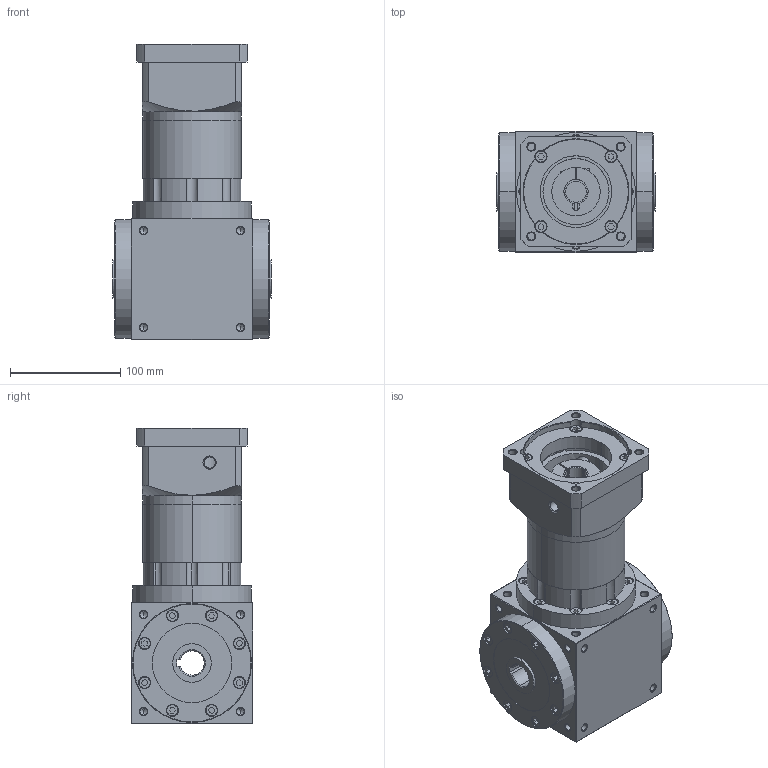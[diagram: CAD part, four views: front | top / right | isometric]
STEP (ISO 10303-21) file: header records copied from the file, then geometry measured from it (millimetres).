
FILE_DESCRIPTION (( 'STEP AP203' ), '1' );
FILE_NAME ('AT120-FH-L3-19-95-115M8.STEP', '2025-08-14T08:25:59', ( 'Windows User' ), ( 'P R C' ), 'SwSTEP 2.0', 'SolidWorks 2016', '' );
FILE_SCHEMA (( 'CONFIG_CONTROL_DESIGN' ));
Length unit declared in the file: millimetre
Products named in the file (7): AT120-输入法兰-B-70-M6-90; 输入胀套-22; AT120-饜磁蟀諉啣-F3-19-55-95-M8-115; AT120-FH-L3-19-95-115M8; AT120-蛌褒眊极-謂怀堤; AT120-怀堤楊擘-蠶講; AT120-双级齿圈
Assembly tree (6 placements, depth 2):
  AT120-FH-L3-19-95-115M8
    AT120-蛌褒眊极-謂怀堤
    AT120-怀堤楊擘-蠶講
    AT120-双级齿圈
    AT120-输入法兰-B-70-M6-90
    输入胀套-22
    AT120-饜磁蟀諉啣-F3-19-55-95-M8-115
Bounding box: 144 x 110 x 268 mm (x, y, z)
Volume: 1961333.5 mm3; surface area: 310657.8 mm2
Topology: 6 solids, 18 shells, 1666 faces, 4336 edges, 2772 vertices
Faces by surface type: plane 849, cylinder 409, cone 244, bspline 164
Entity records: 58308 total; most frequent: CARTESIAN_POINT 18100, ORIENTED_EDGE 8496, DIRECTION 7612, EDGE_CURVE 4248, VERTEX_POINT 2772, LINE 2706, VECTOR 2706, AXIS2_PLACEMENT_3D 2453
